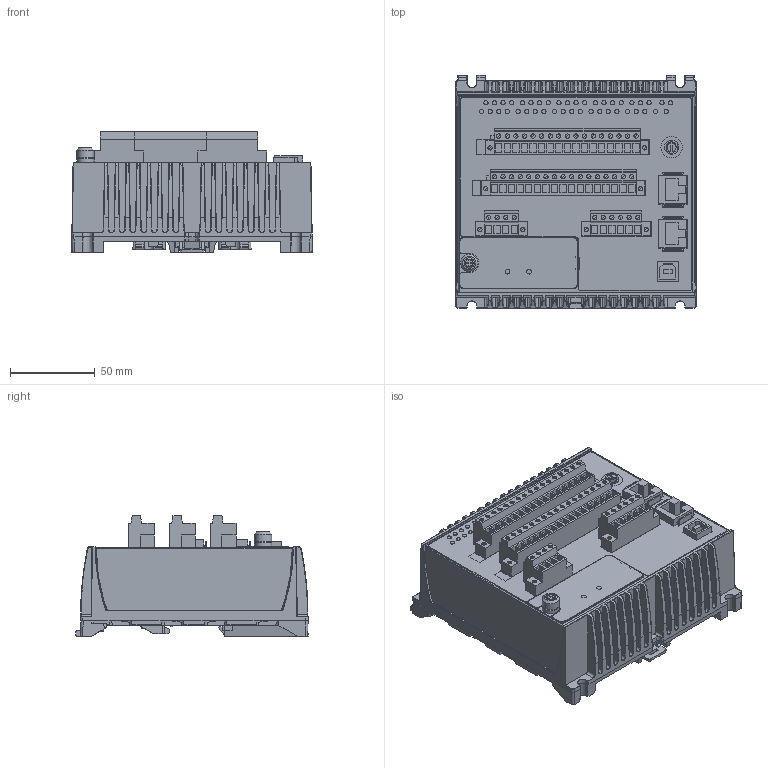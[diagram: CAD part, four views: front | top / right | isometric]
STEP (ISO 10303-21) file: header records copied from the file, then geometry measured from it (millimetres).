
FILE_DESCRIPTION( ( 'Unknown' ), '1' );
FILE_NAME( 'X:/E3 mechanicals/Prototype 1 - with light pipe/3D assembly for users/Solidedge files as assembly/3D_E3 IO_part with color 2.stp', 'Unknown', ( 'Unknown' ), ( 'Unknown' ), 'PSStep 16.0.42', 'Unknown', ' ' );
FILE_SCHEMA( ( 'AUTOMOTIVE_DESIGN { 1 0 10303 214 1 1 1 1 }' ) );
Length unit declared in the file: millimetre
Products named in the file (1): E3_3D-assembly_179
Bounding box: 142.24 x 137.86 x 71.37 mm (x, y, z)
Volume: 832055 mm3; surface area: 139695.6 mm2
Topology: 1 solids, 51 shells, 2849 faces, 7278 edges, 4700 vertices
Faces by surface type: plane 1850, cylinder 665, bspline 138, cone 117, revolution 68, sphere 6, torus 5
Full cylindrical faces by diameter (mm): 1.27 x1, 2.26 x4, 2.54 x144, 2.794 x5, 2.819 x2, 3.373 x1, 4.216 x1, 4.75 x1, 5.156 x1, 6.045 x5, 8.433 x1, 10.312 x2, 12.7 x1
Entity records: 120564 total; most frequent: CARTESIAN_POINT 30483, ORIENTED_EDGE 14042, DIRECTION 13290, EDGE_CURVE 7021, LINE 4864, VECTOR 4864, VERTEX_POINT 4630, AXIS2_PLACEMENT_3D 4179
